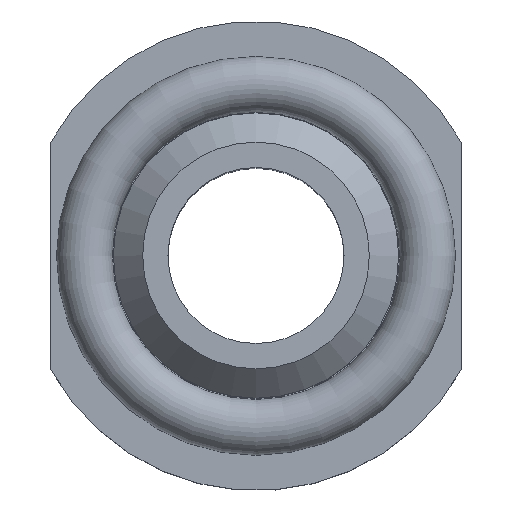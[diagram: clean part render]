
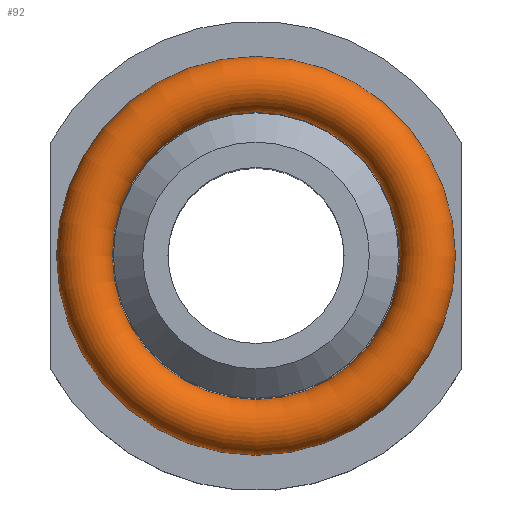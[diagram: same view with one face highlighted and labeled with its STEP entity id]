
A CAD part, top view. The second image highlights one B-rep face of the part: STEP entity #92.
In plain terms, the highlighted toroidal (fillet/blend) face has major radius 5.85 mm and minor radius 0.95 mm.
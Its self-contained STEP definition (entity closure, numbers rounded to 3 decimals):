
#92=ADVANCED_FACE('',(#184,#185),#186,.T.);
#184=FACE_OUTER_BOUND('',#279,.T.);
#185=FACE_OUTER_BOUND('',#280,.T.);
#186=TOROIDAL_SURFACE('',#281,5.85,0.95);
#279=EDGE_LOOP('',(#390));
#280=EDGE_LOOP('',(#391));
#281=AXIS2_PLACEMENT_3D('',#392,#393,#394);
#390=ORIENTED_EDGE('',*,*,#495,.T.);
#391=ORIENTED_EDGE('',*,*,#479,.F.);
#392=CARTESIAN_POINT('',(0.,0.,10.0));
#393=DIRECTION('',(0.0,0.,1.0));
#394=DIRECTION('',(0.0,-1.0,0.));
#479=EDGE_CURVE('',#539,#539,#540,.T.);
#495=EDGE_CURVE('',#562,#562,#563,.T.);
#539=VERTEX_POINT('',#620);
#540=CIRCLE('',#621,5.546);
#562=VERTEX_POINT('',#643);
#563=CIRCLE('',#644,6.8);
#620=CARTESIAN_POINT('',(5.546,0.,9.1));
#621=AXIS2_PLACEMENT_3D('',#684,#685,#686);
#643=CARTESIAN_POINT('',(6.8,0.,10.0));
#644=AXIS2_PLACEMENT_3D('',#711,#712,#713);
#684=CARTESIAN_POINT('',(0.,0.,9.1));
#685=DIRECTION('',(0.0,0.0,1.0));
#686=DIRECTION('',(1.0,0.0,0.0));
#711=CARTESIAN_POINT('',(0.,0.,10.0));
#712=DIRECTION('',(0.0,0.0,1.0));
#713=DIRECTION('',(1.0,0.0,0.0));
